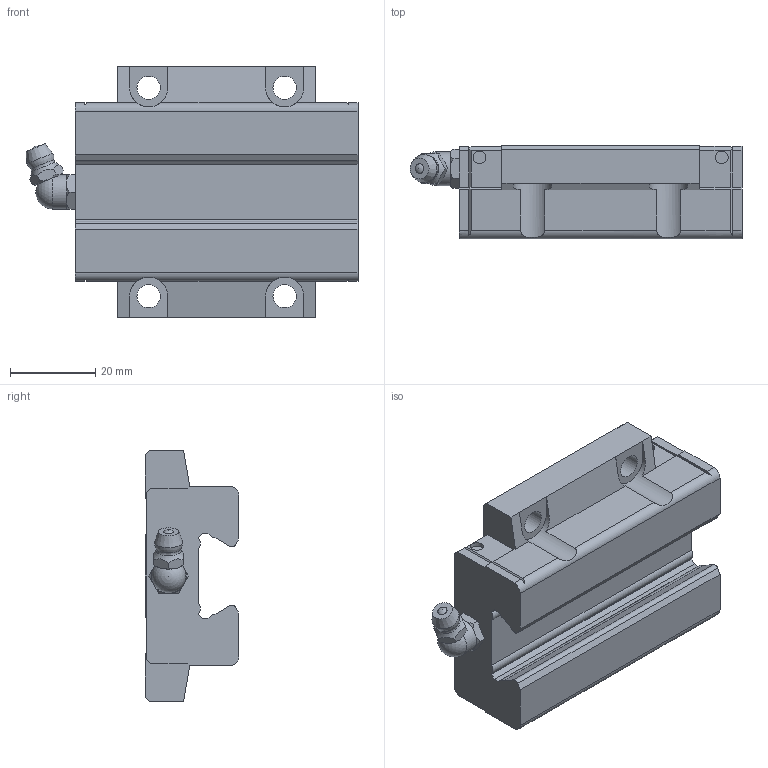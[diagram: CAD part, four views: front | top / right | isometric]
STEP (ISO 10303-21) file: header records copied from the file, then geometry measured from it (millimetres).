
FILE_DESCRIPTION(/* description */ ('STEP AP214'),/* implementation_level */ '2;1');
FILE_NAME(/* name */ 'SSR20XTB1SS(GK) BLOCK(1B-M6F)',/* time_stamp */ '2023-06-01T10:52:16+02:00',/* author */ ('License CC BY-ND 4.0'),/* organization */ ('CADENAS'),/* preprocessor_version */ 'ST-DEVELOPER v19.3',/* originating_system */ 'PARTsolutions',/* authorisation */ ' ');
FILE_SCHEMA (('AUTOMOTIVE_DESIGN {1 0 10303 214 3 1 1}'));
Length unit declared in the file: millimetre
Products named in the file (3): SSR20XTB1SS(GK) BLOCK(1B-M6F); B-M6F-SSR_grease_nipple_joint; SSR20XTBSSB-M6F Slide15-25
Assembly tree (2 placements, depth 2):
  SSR20XTB1SS(GK) BLOCK(1B-M6F)
    B-M6F-SSR_grease_nipple_joint
    SSR20XTBSSB-M6F Slide15-25
Bounding box: 78.1 x 22 x 59 mm (x, y, z)
Volume: 57010.2 mm3; surface area: 14710.8 mm2
Topology: 2 solids, 2 shells, 177 faces, 466 edges, 299 vertices
Faces by surface type: plane 135, cylinder 24, cone 13, sphere 3, torus 2
Full cylindrical faces by diameter (mm): 3 x4, 4.917 x2, 5.5 x4, 6 x1, 8 x1
Entity records: 5337 total; most frequent: CARTESIAN_POINT 1039, ORIENTED_EDGE 860, DIRECTION 844, EDGE_CURVE 430, LINE 320, VECTOR 320, VERTEX_POINT 289, AXIS2_PLACEMENT_3D 262
